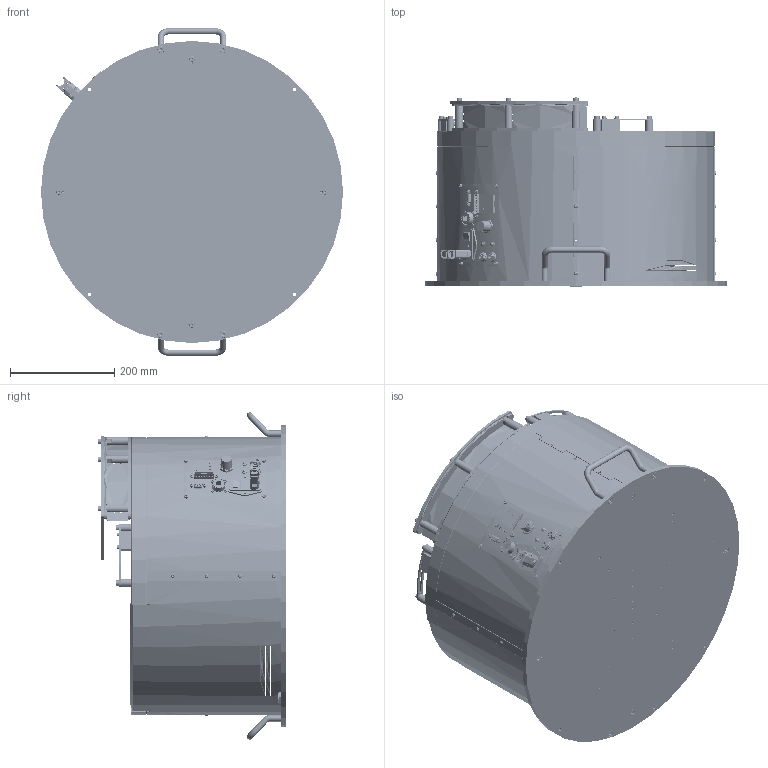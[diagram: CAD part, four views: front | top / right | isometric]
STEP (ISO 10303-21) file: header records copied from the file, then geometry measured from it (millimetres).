
FILE_DESCRIPTION (( 'STEP AP214' ), '1' );
FILE_NAME ('GM000021_FB500CC V2.2 Quick Emptying.STEP', '2023-09-18T14:03:40', ( '' ), ( '' ), 'SwSTEP 2.0', 'SolidWorks 2022', '' );
FILE_SCHEMA (( 'AUTOMOTIVE_DESIGN' ));
Length unit declared in the file: millimetre
Products named in the file (84): CM000008_004; CM000027; CM000642; PD006086; CE000007; CE000461; CM000728; Copia di Led RDY_FLT^CE000326; CM000008; CM000170; PD006073; Copia di 43025-0600^CE000461; PD001112; Copia di 43025-1600^CE000463; GM000021_FB500CC V2.2 Quick Emptying; PD001356; PD005829; PD001360_FB500; Copia di connector_a-ds_25_pp-f^CE000463; PD006088; CM000051; PD001425; CM000015_002; CE000463; PD006089; Copia di Guaina^CE000463; PD001440; CM000686_002; CM000048; CM000212; PD001119; CM000026; PD001649; PD001424; CE000078; Copia di CE000325^CE000461; CE000005; PD001572; CM000001; CM000091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
Assembly tree (186 placements, depth 3):
  GM000021_FB500CC V2.2 Quick Emptying
    CM000032  x4
    CM000031  x7
    CM000048  x12
    CM000170  x4
    CM000050  x3
    CM000166  x12
    CM000642  x4
    CM000027  x4
    CM000021  x8
    CM000026  x12
    CM000024  x10
    CM000025  x4
    CM000043  x2
    CM000006  x4
    CM000051  x4
    CM000091
    CM000037  x4
    CM000015  x2
      CM000015_001
      CM000015_002
    CM000099
    CE000327
      Copia di CE000327^CE000327
    CE000326
      Copia di Led RDY_FLT^CE000326
    CE000461
      Copia di CE000325^CE000461
      Copia di 43025-0600^CE000461
      Copia di Guaina^CE000461
    CE000463
      Copia di connector_a-ds_25_pp-f^CE000463
      Copia di Connettore te 2 poli - Copia^CE000463
      Copia di 39-01-2025^CE000463
      Copia di 43025-1600^CE000463
      Copia di Guaina^CE000463
    PD001071
    CM000001  x2
    PD001440  x4
    PD006073  x2
    PD001650
    PD000709
    PD000031
    PD001106
    PD001112
    PD001059
    PD000043  x4
    PD001118  x2
    PD001119  x2
    PD001424
    PD001425
    CE000078
    PD001360_FB500
    CE000007
    CE000013  x2
    CE000005
    CM000008
      CM000008_001
      CM000008_002
      CM000008_004
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Bounding box: 580 x 362 x 628.99 mm (x, y, z)
Volume: 6903525.8 mm3; surface area: 2947581.8 mm2
Topology: 189 solids, 208 shells, 10710 faces, 27630 edges, 17804 vertices
Faces by surface type: plane 5496, cylinder 2629, bspline 1102, cone 1077, torus 379, sphere 27
Entity records: 415384 total; most frequent: CARTESIAN_POINT 165510, ORIENTED_EDGE 43638, DIRECTION 34765, EDGE_CURVE 22021, VERTEX_POINT 14675, AXIS2_PLACEMENT_3D 11902, LINE 10961, VECTOR 10961
